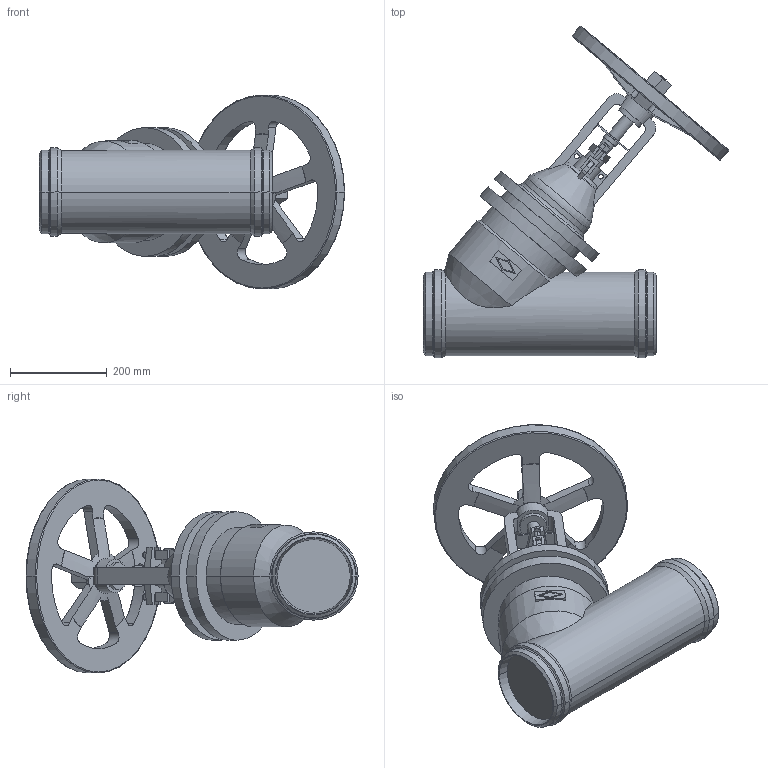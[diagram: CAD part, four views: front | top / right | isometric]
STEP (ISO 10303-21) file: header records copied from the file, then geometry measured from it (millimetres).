
FILE_DESCRIPTION(('OneSpaceDesigner STEP Export'),'2;1');
FILE_NAME('c000004356.stp','2010-05-10T10:58:26',(''),(''),'OneSpace Designer STEP processor for AP214 (Solid Model)','OneSpace Modeling 15.50B 03-Nov-2007 (C) CoCreate Software GmbH','');
FILE_SCHEMA(('AUTOMOTIVE_DESIGN { 1 0 10303 214 1 1 1 1 }'));
Length unit declared in the file: millimetre
Products named in the file (1): 1
Bounding box: 629.27 x 684.57 x 400 mm (x, y, z)
Volume: 21887208.6 mm3; surface area: 918522.5 mm2
Topology: 1 solids, 1 shells, 299 faces, 808 edges, 525 vertices
Faces by surface type: plane 142, cylinder 98, torus 31, cone 28
Entity records: 11911 total; most frequent: CARTESIAN_POINT 2440, ORIENTED_EDGE 1616, DIRECTION 1309, EDGE_CURVE 808, VERTEX_POINT 525, AXIS2_PLACEMENT_3D 451, VECTOR 407, LINE 407
